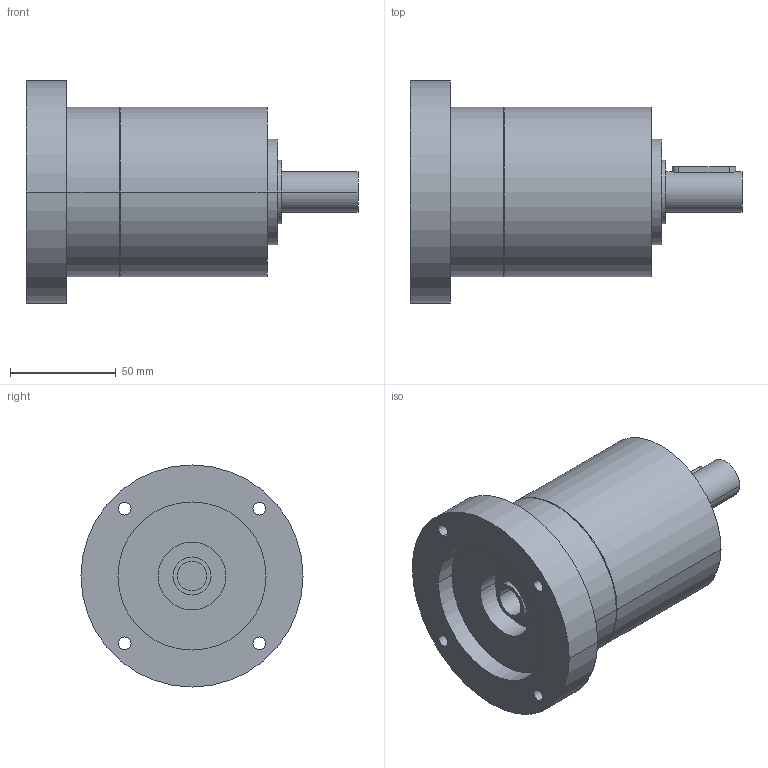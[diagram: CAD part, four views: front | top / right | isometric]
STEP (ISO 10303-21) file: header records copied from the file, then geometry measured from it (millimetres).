
FILE_DESCRIPTION(('CoCreate Modeling STEP Export'),'2;1');
FILE_NAME('GPR100_ig-3-4-5-6_19_B14_14_P14.stp','2014-08-26T10:07:10',(''),(''),'CoCreate Modeling STEP processor for AP214 (Solid Model)','CoCreate Modeling 16.00C 25-Feb-2009 (C) Parametric Technology GmbH','');
FILE_SCHEMA(('AUTOMOTIVE_DESIGN { 1 0 10303 214 1 1 1 1 }'));
Length unit declared in the file: millimetre
Products named in the file (2): GPR100_ig-3-4-5-6_19_B14_14_P14
Assembly tree (1 placements, depth 2):
  GPR100_ig-3-4-5-6_19_B14_14_P14
    GPR100_ig-3-4-5-6_19_B14_14_P14
Bounding box: 157 x 105 x 105 mm (x, y, z)
Volume: 613322 mm3; surface area: 58525.2 mm2
Topology: 1 solids, 1 shells, 76 faces, 203 edges, 145 vertices
Faces by surface type: cylinder 48, plane 22, cone 6
Entity records: 2027 total; most frequent: ORIENTED_EDGE 402, CARTESIAN_POINT 370, DIRECTION 262, EDGE_CURVE 201, VERTEX_POINT 145, EDGE_LOOP 102, AXIS2_PLACEMENT_3D 101, FACE_OUTER_BOUND 76
